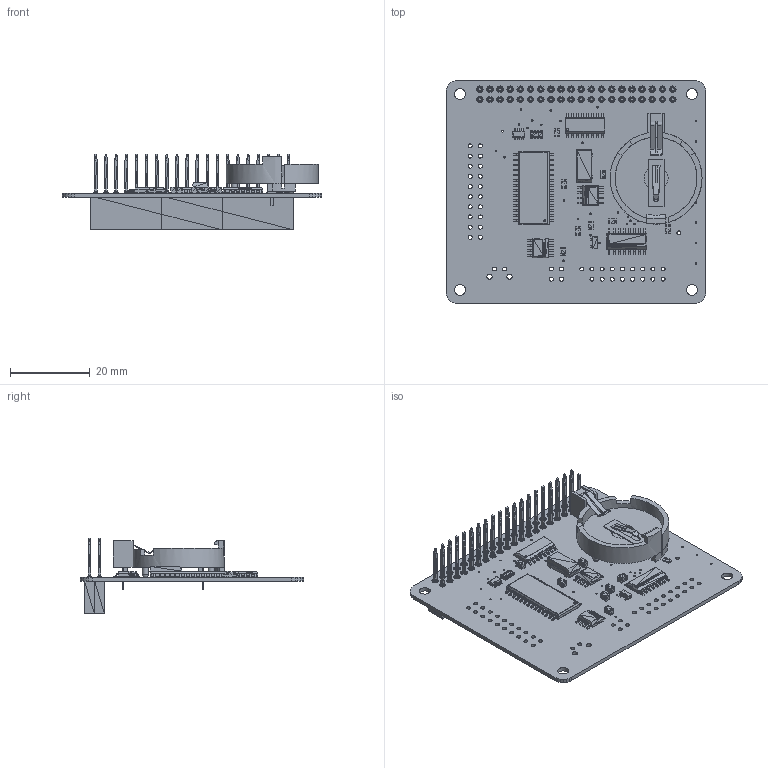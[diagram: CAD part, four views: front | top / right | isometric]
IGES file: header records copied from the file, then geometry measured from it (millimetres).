
Global section: file name: expander-pi-2.0; native system: unknown; preprocessor: unknown; author: and101; organization: unknown; date: 20180823.104836; units: millimetre
Bounding box: 65 x 56 x 18.97 mm (x, y, z)
Volume: 7981.9 mm3; surface area: 15355.7 mm2
Topology: 217 solids, 217 shells, 29178 faces, 44813 edges, 16050 vertices
Faces by surface type: bspline 29178
